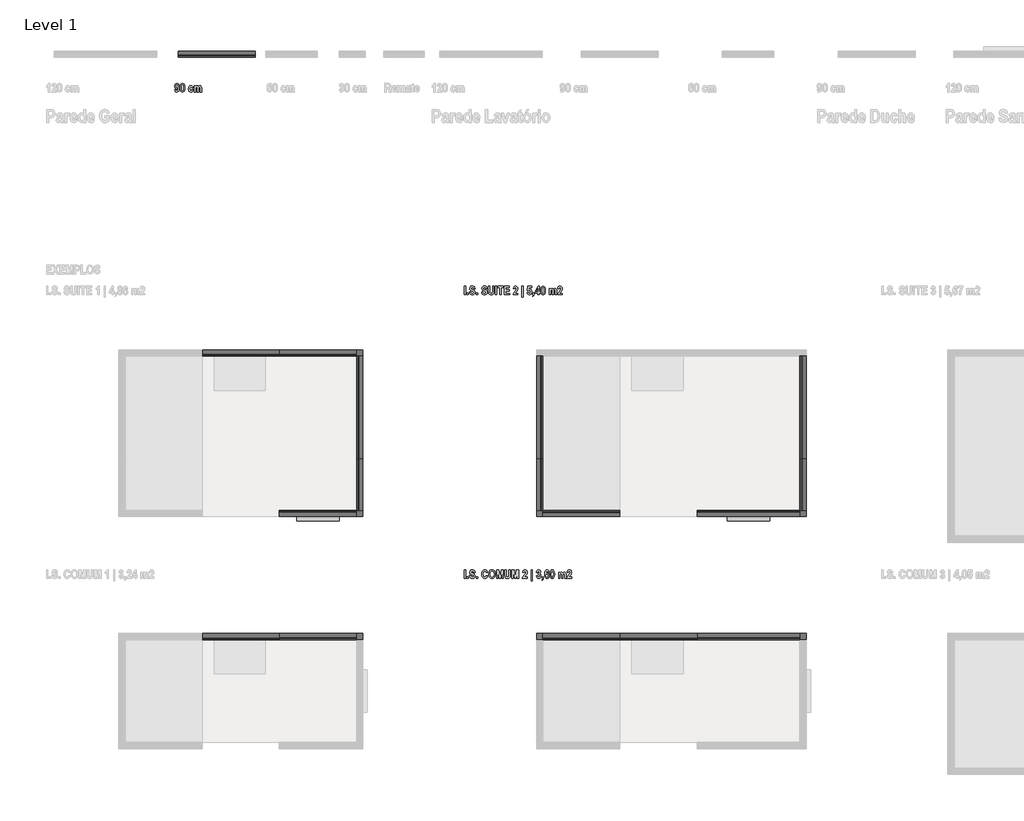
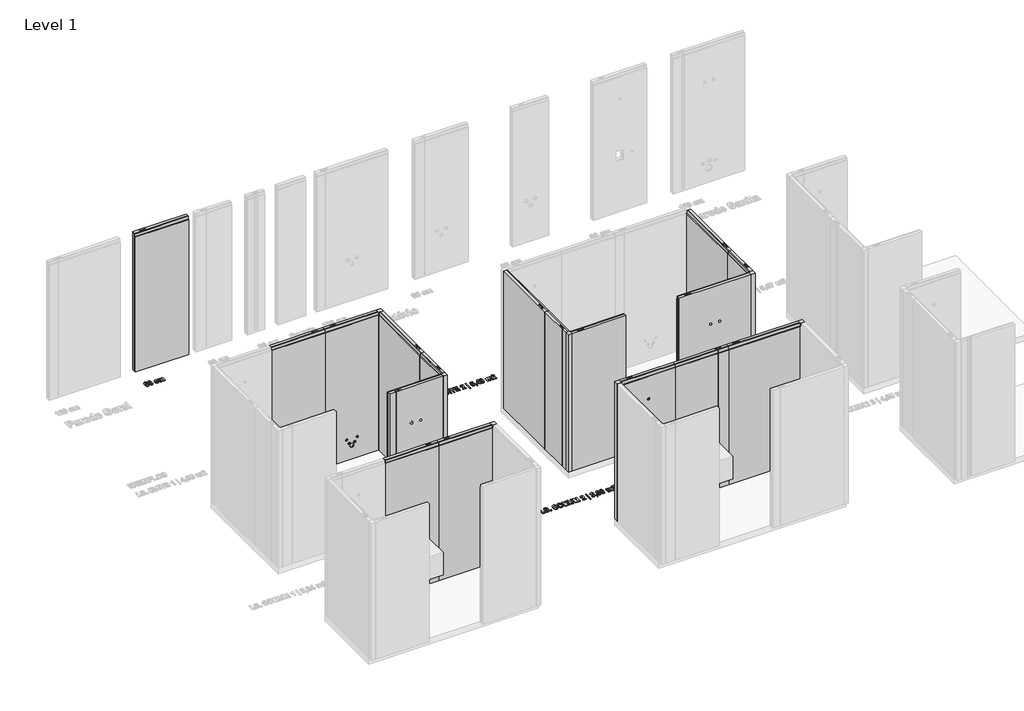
# One storey, part 5 of 10: 27 proxies.
"""IFC4 building model written with IfcOpenShell, lengths in millimetres."""

from ifc_helpers import new_model, si_unit, origin, origin_with_axes, place, context, project, spatial, polyline, outline, extrude, transform, mapped, element, save
from components import generic_models_3c551f1f, generic_models_aefc3c11, generic_models_87fa6935, generic_models_8d7f3108, generic_models_14bfae6f, generic_models_87e237a0, generic_models_d659e27f, generic_models_7c24a650, generic_models_bfa109d8, generic_models_1475a357, generic_models_0c33305c, generic_models_edb91717

model = new_model("IFC4")

# Units and contexts
model_context = context("Model", 3, world=origin())
ifc_project = project(units=[si_unit("LENGTHUNIT", "METRE", prefix="MILLI")], contexts=[model_context])

# Site, building, storey
site = spatial("IfcSite", under=ifc_project)
building = spatial("IfcBuilding", under=site)
storey = spatial("IfcBuildingStorey", under=building, Name="Level 1", Elevation=0.0)

# Proxies
placement = place(None, origin())
generic_models_shape = generic_models_3c551f1f(model_context)
element("IfcBuildingElementProxy", 1, Name="ParedeGeral_Blufab : Parede Geral - Largura 60 cm", ObjectType="ParedeGeral_Blufab : Parede Geral - Largura 60 cm", at=placement, inside=storey, context=model_context, shape_type="MappedRepresentation", body=[
    mapped(generic_models_shape, transform((-3896.3404571, 2627.3727477, 0.0), x_axis=(0.0, 1.0, 0.0), y_axis=(-1.0, 0.0, 0.0), z_axis=(0.0, 0.0, 1.0))),
])
generic_models_2_shape = generic_models_aefc3c11(model_context)
element("IfcBuildingElementProxy", 2, Name="ParedeGeral_Blufab : Parede Geral - Largura 90 cm", ObjectType="ParedeGeral_Blufab : Parede Geral - Largura 90 cm", at=placement, inside=storey, context=model_context, shape_type="MappedRepresentation", body=[
    mapped(generic_models_2_shape, transform((-8150.8727752, 7918.7563997, 0.0), x_axis=(1.0, 0.0, 0.0), y_axis=(0.0, 1.0, 0.0), z_axis=(0.0, 0.0, 1.0))),
])
element("IfcBuildingElementProxy", 3, Name="ParedeGeral_Blufab : Parede Geral - Largura 90 cm", ObjectType="ParedeGeral_Blufab : Parede Geral - Largura 90 cm", at=placement, inside=storey, context=model_context, shape_type="MappedRepresentation", body=[
    mapped(generic_models_2_shape, transform((-6971.3404571, 1114.1909428, 0.0), x_axis=(1.0, 0.0, 0.0), y_axis=(0.0, 1.0, 0.0), z_axis=(0.0, 0.0, 1.0))),
])
generic_models_3_shape = generic_models_87fa6935(model_context)
element("IfcBuildingElementProxy", 4, Name="ParedeGeral_Blufab : Parede Geral - Largura 120 cm", ObjectType="ParedeGeral_Blufab : Parede Geral - Largura 120 cm", at=placement, inside=storey, context=model_context, shape_type="MappedRepresentation", body=[
    mapped(generic_models_3_shape, transform((-3896.3404571, 3227.3727477, 0.0), x_axis=(0.0, 1.0, 0.0), y_axis=(-1.0, 0.0, 0.0), z_axis=(0.0, 0.0, 1.0))),
])
element("IfcBuildingElementProxy", 5, Name="ParedeGeral_Blufab : Parede Geral - Largura 120 cm", ObjectType="ParedeGeral_Blufab : Parede Geral - Largura 120 cm", at=placement, inside=storey, context=model_context, shape_type="MappedRepresentation", body=[
    mapped(generic_models_3_shape, transform((-2096.3404571, 1114.1909428, 0.0), x_axis=(1.0, 0.0, 0.0), y_axis=(0.0, 1.0, 0.0), z_axis=(0.0, 0.0, 1.0))),
])
generic_models_4_shape = generic_models_8d7f3108(model_context)
element("IfcBuildingElementProxy", 6, Name="ParedeDuche_Blufab : Parede Duche- Largura 90 cm", ObjectType="ParedeDuche_Blufab : Parede Duche- Largura 90 cm", at=placement, inside=storey, context=model_context, shape_type="MappedRepresentation", body=[
    mapped(generic_models_4_shape, transform((-3896.3404571, 1114.1909428, 0.0), x_axis=(1.0, 0.0, 0.0), y_axis=(0.0, 1.0, 0.0), z_axis=(0.0, 0.0, 1.0))),
])
generic_models_5_shape = generic_models_14bfae6f(model_context)
element("IfcBuildingElementProxy", 7, Name="ParedeBidé_Blufab : Parede Bidé - Largura 90 cm", ObjectType="ParedeBidé_Blufab : Parede Bidé - Largura 90 cm", at=placement, inside=storey, context=model_context, shape_type="MappedRepresentation", body=[
    mapped(generic_models_5_shape, transform((-6971.3404571, 4427.3727477, 0.0), x_axis=(1.0, 0.0, 0.0), y_axis=(0.0, 1.0, 0.0), z_axis=(0.0, 0.0, 1.0))),
])
generic_models_6_shape = generic_models_87e237a0(model_context)
element("IfcBuildingElementProxy", 8, Name="PerfilCanto_Blufab : Parede Geral - Largura 60 cm", ObjectType="PerfilCanto_Blufab : Parede Geral - Largura 60 cm", at=placement, inside=storey, context=model_context, shape_type="MappedRepresentation", body=[
    mapped(generic_models_6_shape, transform((-6071.3404571, 4427.3727477, 0.0), x_axis=(1.0, 0.0, 0.0), y_axis=(0.0, 1.0, 0.0), z_axis=(0.0, 0.0, 1.0))),
])
element("IfcBuildingElementProxy", 9, Name="PerfilCanto_Blufab : Parede Geral - Largura 60 cm", ObjectType="PerfilCanto_Blufab : Parede Geral - Largura 60 cm", at=placement, inside=storey, context=model_context, shape_type="MappedRepresentation", body=[
    mapped(generic_models_6_shape, transform((-6071.3404571, 2554.3727477, 0.0), x_axis=(1.0, 0.0, 0.0), y_axis=(0.0, 1.0, 0.0), z_axis=(0.0, 0.0, 1.0))),
])
element("IfcBuildingElementProxy", 10, Name="PerfilCanto_Blufab : Parede Geral - Largura 60 cm", ObjectType="PerfilCanto_Blufab : Parede Geral - Largura 60 cm", at=placement, inside=storey, context=model_context, shape_type="MappedRepresentation", body=[
    mapped(generic_models_6_shape, transform((-3969.3404571, 2554.3727477, 0.0), x_axis=(1.0, 0.0, 0.0), y_axis=(0.0, 1.0, 0.0), z_axis=(0.0, 0.0, 1.0))),
])
element("IfcBuildingElementProxy", 11, Name="PerfilCanto_Blufab : Parede Geral - Largura 60 cm", ObjectType="PerfilCanto_Blufab : Parede Geral - Largura 60 cm", at=placement, inside=storey, context=model_context, shape_type="MappedRepresentation", body=[
    mapped(generic_models_6_shape, transform((-896.3404571, 2554.3727477, 0.0), x_axis=(1.0, 0.0, 0.0), y_axis=(0.0, 1.0, 0.0), z_axis=(0.0, 0.0, 1.0))),
])
element("IfcBuildingElementProxy", 12, Name="PerfilCanto_Blufab : Parede Geral - Largura 60 cm", ObjectType="PerfilCanto_Blufab : Parede Geral - Largura 60 cm", at=placement, inside=storey, context=model_context, shape_type="MappedRepresentation", body=[
    mapped(generic_models_6_shape, transform((-6071.3404571, 1114.1909428, 0.0), x_axis=(1.0, 0.0, 0.0), y_axis=(0.0, 1.0, 0.0), z_axis=(0.0, 0.0, 1.0))),
])
element("IfcBuildingElementProxy", 13, Name="PerfilCanto_Blufab : Parede Geral - Largura 60 cm", ObjectType="PerfilCanto_Blufab : Parede Geral - Largura 60 cm", at=placement, inside=storey, context=model_context, shape_type="MappedRepresentation", body=[
    mapped(generic_models_6_shape, transform((-3969.3404571, 1114.1909428, 0.0), x_axis=(1.0, 0.0, 0.0), y_axis=(0.0, 1.0, 0.0), z_axis=(0.0, 0.0, 1.0))),
])
element("IfcBuildingElementProxy", 14, Name="PerfilCanto_Blufab : Parede Geral - Largura 60 cm", ObjectType="PerfilCanto_Blufab : Parede Geral - Largura 60 cm", at=placement, inside=storey, context=model_context, shape_type="MappedRepresentation", body=[
    mapped(generic_models_6_shape, transform((-896.3404571, 1114.1909428, 0.0), x_axis=(1.0, 0.0, 0.0), y_axis=(0.0, 1.0, 0.0), z_axis=(0.0, 0.0, 1.0))),
])
generic_models_7_shape = generic_models_d659e27f(model_context)
element("IfcBuildingElementProxy", 15, Name="ParedeLavatório_Blufab : Parede Lavatório - Largura 90 cm", ObjectType="ParedeLavatório_Blufab : Parede Lavatório - Largura 90 cm", at=placement, inside=storey, context=model_context, shape_type="MappedRepresentation", body=[
    mapped(generic_models_7_shape, transform((-6971.3404571, 4427.3727477, 0.0), x_axis=(-1.0, 0.0, 0.0), y_axis=(0.0, -1.0, 0.0), z_axis=(0.0, 0.0, 1.0))),
])
element("IfcBuildingElementProxy", 16, Name="ParedeLavatório_Blufab : Parede Lavatório - Largura 90 cm", ObjectType="ParedeLavatório_Blufab : Parede Lavatório - Largura 90 cm", at=placement, inside=storey, context=model_context, shape_type="MappedRepresentation", body=[
    mapped(generic_models_7_shape, transform((-6971.3404571, 1114.1909428, 0.0), x_axis=(-1.0, 0.0, 0.0), y_axis=(0.0, -1.0, 0.0), z_axis=(0.0, 0.0, 1.0))),
])
element("IfcBuildingElementProxy", 17, Name="ParedeLavatório_Blufab : Parede Lavatório - Largura 90 cm", ObjectType="ParedeLavatório_Blufab : Parede Lavatório - Largura 90 cm", at=placement, inside=storey, context=model_context, shape_type="MappedRepresentation", body=[
    mapped(generic_models_7_shape, transform((-2096.3404571, 1114.1909428, 0.0), x_axis=(-1.0, 0.0, 0.0), y_axis=(0.0, -1.0, 0.0), z_axis=(0.0, 0.0, 1.0))),
])
generic_models_8_shape = generic_models_7c24a650(model_context)
element("IfcBuildingElementProxy", 18, Name="ParedeGeral_Blufab : Parede Geral - Largura 90 cm", ObjectType="ParedeGeral_Blufab : Parede Geral - Largura 90 cm", at=placement, inside=storey, context=model_context, shape_type="MappedRepresentation", body=[
    mapped(generic_models_8_shape, transform((-3896.3404571, 2627.3727477, 0.0), x_axis=(1.0, 0.0, 0.0), y_axis=(0.0, 1.0, 0.0), z_axis=(0.0, 0.0, 1.0))),
])
generic_models_9_shape = generic_models_bfa109d8(model_context)
element("IfcBuildingElementProxy", 19, Name="ParedeGeral_Blufab : Parede Geral - Largura 120 cm", ObjectType="ParedeGeral_Blufab : Parede Geral - Largura 120 cm", at=placement, inside=storey, context=model_context, shape_type="MappedRepresentation", body=[
    mapped(generic_models_9_shape, transform((-6071.3404571, 3227.3727477, 0.0), x_axis=(0.0, 1.0, 0.0), y_axis=(-1.0, 0.0, 0.0), z_axis=(0.0, 0.0, 1.0))),
])
element("IfcBuildingElementProxy", 20, Name="ParedeGeral_Blufab : Parede Geral - Largura 120 cm", ObjectType="ParedeGeral_Blufab : Parede Geral - Largura 120 cm", at=placement, inside=storey, context=model_context, shape_type="MappedRepresentation", body=[
    mapped(generic_models_9_shape, transform((-896.3404571, 3227.3727477, 0.0), x_axis=(0.0, 1.0, 0.0), y_axis=(-1.0, 0.0, 0.0), z_axis=(0.0, 0.0, 1.0))),
])
generic_models_10_shape = generic_models_1475a357(model_context)
element("IfcBuildingElementProxy", 21, Name="ParedeGeral_Blufab : Parede Geral - Largura 60 cm", ObjectType="ParedeGeral_Blufab : Parede Geral - Largura 60 cm", at=placement, inside=storey, context=model_context, shape_type="MappedRepresentation", body=[
    mapped(generic_models_10_shape, transform((-6071.3404571, 2627.3727477, 0.0), x_axis=(0.0, 1.0, 0.0), y_axis=(-1.0, 0.0, 0.0), z_axis=(0.0, 0.0, 1.0))),
])
element("IfcBuildingElementProxy", 22, Name="ParedeGeral_Blufab : Parede Geral - Largura 60 cm", ObjectType="ParedeGeral_Blufab : Parede Geral - Largura 60 cm", at=placement, inside=storey, context=model_context, shape_type="MappedRepresentation", body=[
    mapped(generic_models_10_shape, transform((-896.3404571, 2627.3727477, 0.0), x_axis=(0.0, 1.0, 0.0), y_axis=(-1.0, 0.0, 0.0), z_axis=(0.0, 0.0, 1.0))),
])
generic_models_11_shape = generic_models_0c33305c(model_context)
element("IfcBuildingElementProxy", 23, Name="ParedeSanita_Blufab : Parede Sanita - Largura 90 cm", ObjectType="ParedeSanita_Blufab : Parede Sanita - Largura 90 cm", at=placement, inside=storey, context=model_context, shape_type="MappedRepresentation", body=[
    mapped(generic_models_11_shape, transform((-6971.3404571, 2627.3727477, 0.0), x_axis=(1.0, 0.0, 0.0), y_axis=(0.0, 1.0, 0.0), z_axis=(0.0, 0.0, 1.0))),
])
generic_models_12_shape = generic_models_edb91717(model_context)
element("IfcBuildingElementProxy", 24, Name="ParedeSanita_Blufab : Parede Sanita- Largura 120 cm", ObjectType="ParedeSanita_Blufab : Parede Sanita- Largura 120 cm", at=placement, inside=storey, context=model_context, shape_type="MappedRepresentation", body=[
    mapped(generic_models_12_shape, transform((-2096.3404571, 2627.3727477, 0.0), x_axis=(1.0, 0.0, 0.0), y_axis=(0.0, 1.0, 0.0), z_axis=(0.0, 0.0, 1.0))),
])
element("IfcBuildingElementProxy", 25, Name="24\" Arial", ObjectType="24\" Arial", at=placement, inside=storey, context=model_context, shape_type="SweptSolid", body=[
    extrude(outline(polyline([(-8193.2675308, 7537.2422205), (-8177.0225947, 7538.8667141), (-8174.1860766, 7530.3381226), (-8167.9102009, 7527.4952588), (-8159.0643255, 7532.9906161), (-8154.6350422, 7555.39086), (-8161.5518314, 7549.1086386), (-8170.0931142, 7546.9891821), (-8179.3006932, 7549.2228608), (-8187.3787415, 7555.923897), (-8193.0137037, 7566.3181178), (-8194.8920244, 7579.6313506), (-8192.9819753, 7593.7758672), (-8187.2518279, 7604.5317917), (-8178.7232365, 7611.328013), (-8168.4178551, 7613.5934201), (-8157.0019801, 7610.6648896), (-8147.7817098, 7601.8792982), (-8141.6898587, 7586.3101768), (-8139.6592417, 7563.0310565), (-8141.7723525, 7539.3140844), (-8148.111685, 7523.3451853), (-8157.8205726, 7514.2740384), (-8170.0423487, 7511.2503227), (-8178.5677673, 7512.8430879), (-8185.4623467, 7517.6213836), (-8190.4532225, 7525.7121233), (-8193.2675308, 7537.2422205)]), holes=[polyline([(-8155.9041778, 7579.2252272), (-8159.6100538, 7592.6526822), (-8168.0117317, 7597.348484), (-8175.6138542, 7593.4776203), (-8178.6470883, 7580.5958937), (-8175.3346443, 7567.4222658), (-8167.1741022, 7563.2341182), (-8159.2166218, 7567.2318955), (-8155.9041778, 7579.2252272)])]), origin_with_axes(), (0.0, 0.0, 1.0), 10.0),
    extrude(outline(polyline([(-8103.1335182, 7613.5934201), (-8092.2760629, 7610.7473834), (-8083.715743, 7602.2092735), (-8078.156929, 7586.564004), (-8076.303991, 7562.3964887), (-8078.156929, 7538.2670475), (-8083.715743, 7522.6344693), (-8092.2633715, 7514.0963594), (-8103.0827528, 7511.2503227), (-8113.9402081, 7514.0709767), (-8122.500528, 7522.5329385), (-8128.059342, 7538.1908994), (-8129.9122801, 7562.5995504), (-8128.059342, 7586.6147694), (-8122.500528, 7602.2092735), (-8113.9528995, 7610.7473834), (-8103.1335182, 7613.5934201)]), holes=[polyline([(-8103.1081355, 7597.348484), (-8110.7990974, 7591.256633), (-8113.667344, 7562.3964887), (-8110.7990974, 7533.5617271), (-8103.1081355, 7527.4952588), (-8095.3790995, 7533.5871099), (-8092.548927, 7562.3964887), (-8095.3790995, 7591.256633), (-8103.1081355, 7597.348484)])]), origin_with_axes(), (0.0, 0.0, 1.0), 10.0),
    extrude(outline(polyline([(-7978.8343744, 7564.8586118), (-7995.0793105, 7561.6096246), (-7998.4869397, 7568.9198458), (-8005.4100746, 7571.3565863), (-8014.4082462, 7566.5719449), (-8017.822221, 7550.4158483), (-8014.5224684, 7532.6733322), (-8005.6892844, 7527.4952588), (-7998.8867174, 7530.3635053), (-7995.0793105, 7540.4912077), (-7978.8343744, 7537.2422205), (-7982.2880098, 7525.8707652), (-7987.9531139, 7517.7482972), (-7995.829687, 7512.8748163), (-8005.9177288, 7511.2503227), (-8018.3838136, 7514.0360754), (-8027.1503679, 7522.3933336), (-8032.3379598, 7534.6722208), (-8034.0671571, 7549.2228608), (-8032.0809599, 7565.7596981), (-8026.1223681, 7577.8037953), (-8016.9401718, 7585.1520906), (-8005.283161, 7587.6015223), (-7995.8154092, 7586.2403744), (-7988.2767435, 7582.1569305), (-7978.8343744, 7564.8586118)])), origin_with_axes(), (0.0, 0.0, 1.0), 10.0),
    extrude(outline(polyline([(-7967.4629192, 7585.9770287), (-7952.8424767, 7585.9770287), (-7952.8424767, 7576.0777708), (-7944.2885025, 7584.7459672), (-7934.2369483, 7587.6015223), (-7924.2996163, 7584.7332758), (-7917.4082098, 7576.0523881), (-7908.9050011, 7584.7332758), (-7899.2341876, 7587.6015223), (-7888.7384359, 7584.6825104), (-7882.0373998, 7576.3189066), (-7879.7402643, 7559.6043903), (-7879.7402643, 7512.8748163), (-7895.9852004, 7512.8748163), (-7895.9852004, 7553.6394528), (-7897.8508297, 7567.8283892), (-7904.1076684, 7571.3565863), (-7912.35705, 7566.4196487), (-7915.4791237, 7547.1160957), (-7915.4791237, 7512.8748163), (-7931.7240598, 7512.8748163), (-7931.7240598, 7551.9641938), (-7932.9678127, 7566.9146115), (-7939.6434661, 7571.3565863), (-7945.8622307, 7569.0721421), (-7949.9615388, 7562.3964887), (-7951.2179831, 7547.5222191), (-7951.2179831, 7512.8748163), (-7967.4629192, 7512.8748163), (-7967.4629192, 7585.9770287)])), origin_with_axes(), (0.0, 0.0, 1.0), 10.0),
])
element("IfcBuildingElementProxy", 26, Name="24\" Arial", ObjectType="24\" Arial", at=placement, inside=storey, context=model_context, shape_type="SweptSolid", body=[
    extrude(outline(polyline([(-4815.0185436, 5144.3634386), (-4815.0185436, 5245.0820423), (-4798.7736075, 5245.0820423), (-4798.7736075, 5144.3634386), (-4815.0185436, 5144.3634386)])), origin_with_axes(), (0.0, 0.0, 1.0), 10.0),
    extrude(outline(polyline([(-4782.5286714, 5144.3634386), (-4782.5286714, 5163.8573619), (-4766.2837353, 5163.8573619), (-4766.2837353, 5144.3634386), (-4782.5286714, 5144.3634386)])), origin_with_axes(), (0.0, 0.0, 1.0), 10.0),
    extrude(outline(polyline([(-4753.2877864, 5176.8533108), (-4737.0428504, 5178.4778044), (-4731.1857894, 5165.0757321), (-4719.0972725, 5160.6083747), (-4707.2435457, 5164.3650161), (-4702.9284846, 5173.655089), (-4704.4514473, 5179.1885203), (-4709.0964837, 5182.9451618), (-4723.9707533, 5188.1486179), (-4739.3653686, 5195.2557774), (-4747.14517, 5205.2058008), (-4750.0387992, 5218.4809595), (-4746.2948491, 5233.3425377), (-4735.9640851, 5243.3306352), (-4719.6810749, 5246.7065359), (-4706.7295458, 5244.812351), (-4696.9635471, 5239.1297962), (-4690.7130541, 5229.92539), (-4688.3080421, 5217.465651), (-4704.5529782, 5215.8411574), (-4709.2995454, 5225.9561684), (-4719.7318403, 5228.8371062), (-4730.1387525, 5226.0957733), (-4733.7938631, 5219.2932063), (-4730.9256166, 5212.5667874), (-4716.3559396, 5206.1449611), (-4698.3342136, 5198.2509375), (-4689.6787086, 5188.1105438), (-4686.6835485, 5173.0205211), (-4688.6856099, 5161.2239054), (-4694.6917943, 5151.4705981), (-4704.9622744, 5144.9218583), (-4719.757223, 5142.738945), (-4733.1513632, 5144.8710928), (-4743.2045038, 5151.2675364), (-4749.9166449, 5161.9282757), (-4753.2877864, 5176.8533108)])), origin_with_axes(), (0.0, 0.0, 1.0), 10.0),
    extrude(outline(polyline([(-4673.6875996, 5144.3634386), (-4673.6875996, 5163.8573619), (-4657.4426635, 5163.8573619), (-4657.4426635, 5144.3634386), (-4673.6875996, 5144.3634386)])), origin_with_axes(), (0.0, 0.0, 1.0), 10.0),
    extrude(outline(polyline([(-4611.9568425, 5176.8533108), (-4595.7119064, 5178.4778044), (-4589.8548454, 5165.0757321), (-4577.7663285, 5160.6083747), (-4565.9126017, 5164.3650161), (-4561.5975406, 5173.655089), (-4563.1205033, 5179.1885203), (-4567.7655398, 5182.9451618), (-4582.6398094, 5188.1486179), (-4598.0344246, 5195.2557774), (-4605.814226, 5205.2058008), (-4608.7078553, 5218.4809595), (-4604.9639051, 5233.3425377), (-4594.6331411, 5243.3306352), (-4578.3501309, 5246.7065359), (-4565.3986018, 5244.812351), (-4555.6326031, 5239.1297962), (-4549.3821101, 5229.92539), (-4546.9770981, 5217.465651), (-4563.2220342, 5215.8411574), (-4567.9686015, 5225.9561684), (-4578.4008964, 5228.8371062), (-4588.8078085, 5226.0957733), (-4592.4629192, 5219.2932063), (-4589.5946726, 5212.5667874), (-4575.0249956, 5206.1449611), (-4557.0032696, 5198.2509375), (-4548.3477646, 5188.1105438), (-4545.3526045, 5173.0205211), (-4547.354666, 5161.2239054), (-4553.3608503, 5151.4705981), (-4563.6313304, 5144.9218583), (-4578.4262791, 5142.738945), (-4591.8204192, 5144.8710928), (-4601.8735599, 5151.2675364), (-4608.5857009, 5161.9282757), (-4611.9568425, 5176.8533108)])), origin_with_axes(), (0.0, 0.0, 1.0), 10.0),
    extrude(outline(polyline([(-4532.3566556, 5245.0820423), (-4516.1117195, 5245.0820423), (-4516.1117195, 5190.9153336), (-4515.5025344, 5174.4673358), (-4510.2483129, 5164.2254112), (-4499.3083638, 5160.6083747), (-4489.9294515, 5163.1720286), (-4484.9544398, 5170.2664968), (-4483.6218474, 5189.7477288), (-4483.6218474, 5245.0820423), (-4467.3769113, 5245.0820423), (-4467.3769113, 5192.2352346), (-4469.5090591, 5162.9562756), (-4472.9801451, 5154.7893878), (-4479.1291072, 5148.3358331), (-4487.8099949, 5144.138167), (-4498.8768577, 5142.738945), (-4518.764213, 5147.37129), (-4529.1330511, 5160.4180043), (-4532.3566556, 5191.3976051), (-4532.3566556, 5245.0820423)])), origin_with_axes(), (0.0, 0.0, 1.0), 10.0),
    extrude(outline(polyline([(-4449.5074816, 5144.3634386), (-4449.5074816, 5245.0820423), (-4433.2625455, 5245.0820423), (-4433.2625455, 5144.3634386), (-4449.5074816, 5144.3634386)])), origin_with_axes(), (0.0, 0.0, 1.0), 10.0),
    extrude(outline(polyline([(-4397.5236861, 5144.3634386), (-4397.5236861, 5228.8371062), (-4421.8910902, 5228.8371062), (-4421.8910902, 5245.0820423), (-4356.9113459, 5245.0820423), (-4356.9113459, 5228.8371062), (-4381.27875, 5228.8371062), (-4381.27875, 5144.3634386), (-4397.5236861, 5144.3634386)])), origin_with_axes(), (0.0, 0.0, 1.0), 10.0),
    extrude(outline(polyline([(-4347.1643842, 5144.3634386), (-4347.1643842, 5245.0820423), (-4287.0581207, 5245.0820423), (-4287.0581207, 5228.8371062), (-4330.9194481, 5228.8371062), (-4330.9194481, 5204.4697021), (-4290.3071079, 5204.4697021), (-4290.3071079, 5188.224766), (-4330.9194481, 5188.224766), (-4330.9194481, 5160.6083747), (-4285.4336271, 5160.6083747), (-4285.4336271, 5144.3634386), (-4347.1643842, 5144.3634386)])), origin_with_axes(), (0.0, 0.0, 1.0), 10.0),
    extrude(outline(polyline([(-4187.9640105, 5160.6083747), (-4187.9640105, 5144.3634386), (-4243.1967932, 5144.3634386), (-4237.8156582, 5163.5654607), (-4220.3523519, 5187.4632846), (-4207.711761, 5203.4036282), (-4204.2089466, 5215.612713), (-4207.0391191, 5225.4992795), (-4214.4635625, 5228.8371062), (-4222.2179812, 5225.1819956), (-4225.3273635, 5214.2166638), (-4241.5722996, 5215.8411574), (-4238.7103988, 5228.9354643), (-4233.0183255, 5238.0129569), (-4224.7372155, 5243.314771), (-4214.1082046, 5245.0820423), (-4202.7335765, 5242.9372031), (-4194.5508245, 5236.5026855), (-4189.610714, 5227.2951064), (-4187.9640105, 5216.8310832), (-4189.6392696, 5204.6600725), (-4194.8046516, 5192.7936543), (-4206.4426253, 5177.5640267), (-4216.0499821, 5166.0402752), (-4219.3116606, 5160.6083747), (-4187.9640105, 5160.6083747)])), origin_with_axes(), (0.0, 0.0, 1.0), 10.0),
    extrude(outline(polyline([(-4140.8536959, 5115.1225536), (-4140.8536959, 5246.7065359), (-4127.857747, 5246.7065359), (-4127.857747, 5115.1225536), (-4140.8536959, 5115.1225536)])), origin_with_axes(), (0.0, 0.0, 1.0), 10.0),
    extrude(outline(polyline([(-4080.7474324, 5171.9798299), (-4064.5024963, 5173.6043235), (-4060.5681758, 5162.8928188), (-4053.2579546, 5158.9838811), (-4045.1481779, 5163.9208187), (-4041.7595857, 5179.0616068), (-4045.224326, 5193.352074), (-4054.0448187, 5197.9717277), (-4060.504719, 5196.3472341), (-4066.2792861, 5191.4737532), (-4079.1229387, 5193.0982468), (-4071.0004707, 5243.4575487), (-4028.7636369, 5243.4575487), (-4028.7636369, 5227.2126126), (-4057.1668923, 5227.2126126), (-4060.3397314, 5207.6679239), (-4049.8312884, 5214.2166638), (-4041.1186722, 5212.2241208), (-4033.8147967, 5206.246492), (-4027.5896864, 5194.475259), (-4025.5146496, 5179.4677302), (-4027.3358593, 5166.3099665), (-4032.7994882, 5154.2500051), (-4041.6453635, 5145.61671), (-4053.6133125, 5142.738945), (-4063.6553482, 5144.6394756), (-4071.901557, 5150.3410674), (-4077.7871735, 5159.5518193), (-4080.7474324, 5171.9798299)])), origin_with_axes(), (0.0, 0.0, 1.0), 10.0),
    extrude(outline(polyline([(-4014.1431944, 5163.8573619), (-3997.8982583, 5163.8573619), (-3997.8982583, 5149.8968699), (-4000.7918875, 5132.2558846), (-4012.6963798, 5121.6205281), (-4015.767688, 5129.5399344), (-4008.4193927, 5134.83223), (-4006.0207263, 5144.3634386), (-4014.1431944, 5144.3634386), (-4014.1431944, 5163.8573619)])), origin_with_axes(), (0.0, 0.0, 1.0), 10.0),
    extrude(outline(polyline([(-3954.0369309, 5144.3634386), (-3954.0369309, 5163.8573619), (-3986.526803, 5163.8573619), (-3986.526803, 5180.0261498), (-3951.9301657, 5245.0820423), (-3937.7919948, 5245.0820423), (-3937.7919948, 5180.102298), (-3928.0450331, 5180.102298), (-3928.0450331, 5163.8573619), (-3937.7919948, 5163.8573619), (-3937.7919948, 5144.3634386), (-3954.0369309, 5144.3634386)]), holes=[polyline([(-3954.0369309, 5180.102298), (-3954.0369309, 5215.1050587), (-3972.2617185, 5180.102298), (-3954.0369309, 5180.102298)])]), origin_with_axes(), (0.0, 0.0, 1.0), 10.0),
    extrude(outline(polyline([(-3894.7682968, 5245.0820423), (-3883.9108415, 5242.2360057), (-3875.3505217, 5233.6978957), (-3869.7917076, 5218.0526262), (-3867.9387696, 5193.8851109), (-3869.7917076, 5169.7556697), (-3875.3505217, 5154.1230916), (-3883.8981502, 5145.5849816), (-3894.7175314, 5142.738945), (-3905.5749867, 5145.5595989), (-3914.1353066, 5154.0215607), (-3919.6941207, 5169.6795216), (-3921.5470587, 5194.0881726), (-3919.6941207, 5218.1033916), (-3914.1353066, 5233.6978957), (-3905.5876781, 5242.2360057), (-3894.7682968, 5245.0820423)]), holes=[polyline([(-3894.7429141, 5228.8371062), (-3902.4338761, 5222.7452552), (-3905.3021226, 5193.8851109), (-3902.4338761, 5165.0503494), (-3894.7429141, 5158.9838811), (-3887.0138781, 5165.0757321), (-3884.1837057, 5193.8851109), (-3887.0138781, 5222.7452552), (-3894.7429141, 5228.8371062)])]), origin_with_axes(), (0.0, 0.0, 1.0), 10.0),
    extrude(outline(polyline([(-3822.4529485, 5217.465651), (-3807.8325061, 5217.465651), (-3807.8325061, 5207.566393), (-3799.2785319, 5216.2345894), (-3789.2269777, 5219.0901446), (-3779.2896457, 5216.2218981), (-3772.3982392, 5207.5410103), (-3763.8950305, 5216.2218981), (-3754.224217, 5219.0901446), (-3743.7284653, 5216.1711326), (-3737.0274291, 5207.8075288), (-3734.7302937, 5191.0930125), (-3734.7302937, 5144.3634386), (-3750.9752297, 5144.3634386), (-3750.9752297, 5185.1280751), (-3752.8408591, 5199.3170114), (-3759.0976978, 5202.8452085), (-3767.3470794, 5197.9082709), (-3770.469153, 5178.6047179), (-3770.469153, 5144.3634386), (-3786.7140891, 5144.3634386), (-3786.7140891, 5183.452816), (-3787.9578421, 5198.4032338), (-3794.6334955, 5202.8452085), (-3800.8522601, 5200.5607644), (-3804.9515682, 5193.8851109), (-3806.2080124, 5179.0108413), (-3806.2080124, 5144.3634386), (-3822.4529485, 5144.3634386), (-3822.4529485, 5217.465651)])), origin_with_axes(), (0.0, 0.0, 1.0), 10.0),
    extrude(outline(polyline([(-3669.7505493, 5160.6083747), (-3669.7505493, 5144.3634386), (-3724.983332, 5144.3634386), (-3719.6021969, 5163.5654607), (-3702.1388906, 5187.4632846), (-3689.4982997, 5203.4036282), (-3685.9954854, 5215.612713), (-3688.8256578, 5225.4992795), (-3696.2501013, 5228.8371062), (-3704.00452, 5225.1819956), (-3707.1139023, 5214.2166638), (-3723.3588384, 5215.8411574), (-3720.4969375, 5228.9354643), (-3714.8048642, 5238.0129569), (-3706.5237542, 5243.314771), (-3695.8947433, 5245.0820423), (-3684.5201152, 5242.9372031), (-3676.3373632, 5236.5026855), (-3671.3972528, 5227.2951064), (-3669.7505493, 5216.8310832), (-3671.4258083, 5204.6600725), (-3676.5911904, 5192.7936543), (-3688.2291641, 5177.5640267), (-3697.8365208, 5166.0402752), (-3701.0981994, 5160.6083747), (-3669.7505493, 5160.6083747)])), origin_with_axes(), (0.0, 0.0, 1.0), 10.0),
])
element("IfcBuildingElementProxy", 27, Name="24\" Arial", ObjectType="24\" Arial", at=placement, inside=storey, context=model_context, shape_type="SweptSolid", body=[
    extrude(outline(polyline([(-4815.0185436, 1831.1816336), (-4815.0185436, 1931.9002374), (-4798.7736075, 1931.9002374), (-4798.7736075, 1831.1816336), (-4815.0185436, 1831.1816336)])), origin_with_axes(), (0.0, 0.0, 1.0), 10.0),
    extrude(outline(polyline([(-4782.5286714, 1831.1816336), (-4782.5286714, 1850.6755569), (-4766.2837353, 1850.6755569), (-4766.2837353, 1831.1816336), (-4782.5286714, 1831.1816336)])), origin_with_axes(), (0.0, 0.0, 1.0), 10.0),
    extrude(outline(polyline([(-4753.2877864, 1863.6715058), (-4737.0428504, 1865.2959994), (-4731.1857894, 1851.8939271), (-4719.0972725, 1847.4265697), (-4707.2435457, 1851.1832112), (-4702.9284846, 1860.473284), (-4704.4514473, 1866.0067154), (-4709.0964837, 1869.7633568), (-4723.9707533, 1874.9668129), (-4739.3653686, 1882.0739725), (-4747.14517, 1892.0239958), (-4750.0387992, 1905.2991545), (-4746.2948491, 1920.1607328), (-4735.9640851, 1930.1488302), (-4719.6810749, 1933.524731), (-4706.7295458, 1931.630546), (-4696.9635471, 1925.9479913), (-4690.7130541, 1916.7435851), (-4688.3080421, 1904.283846), (-4704.5529782, 1902.6593524), (-4709.2995454, 1912.7743634), (-4719.7318403, 1915.6553013), (-4730.1387525, 1912.9139683), (-4733.7938631, 1906.1114013), (-4730.9256166, 1899.3849825), (-4716.3559396, 1892.9631562), (-4698.3342136, 1885.0691325), (-4689.6787086, 1874.9287388), (-4686.6835485, 1859.8387162), (-4688.6856099, 1848.0421005), (-4694.6917943, 1838.2887932), (-4704.9622744, 1831.7400533), (-4719.757223, 1829.55714), (-4733.1513632, 1831.6892879), (-4743.2045038, 1838.0857314), (-4749.9166449, 1848.7464708), (-4753.2877864, 1863.6715058)])), origin_with_axes(), (0.0, 0.0, 1.0), 10.0),
    extrude(outline(polyline([(-4673.6875996, 1831.1816336), (-4673.6875996, 1850.6755569), (-4657.4426635, 1850.6755569), (-4657.4426635, 1831.1816336), (-4673.6875996, 1831.1816336)])), origin_with_axes(), (0.0, 0.0, 1.0), 10.0),
    extrude(outline(polyline([(-4556.7240598, 1868.5449866), (-4540.4791237, 1862.0470122), (-4545.4795181, 1847.420224), (-4552.9674183, 1837.3496328), (-4562.7080343, 1831.5052632), (-4574.4665759, 1829.55714), (-4588.9918332, 1832.6601766), (-4600.4838564, 1841.9692865), (-4609.0885959, 1858.8107163), (-4611.9568425, 1880.6525405), (-4609.0632132, 1903.5731301), (-4600.3823255, 1920.9095228), (-4588.5984012, 1930.3709289), (-4573.3497365, 1933.524731), (-4560.6456889, 1931.1704844), (-4550.2007026, 1924.1077446), (-4540.4791237, 1904.283846), (-4556.7240598, 1899.4103652), (-4563.1712688, 1911.4671537), (-4574.5173413, 1915.6553013), (-4583.0205501, 1913.6976596), (-4589.7977343, 1907.8247344), (-4594.2333634, 1897.4400321), (-4595.7119064, 1881.9470589), (-4594.2904745, 1865.9400857), (-4590.0261787, 1855.3332847), (-4583.4901302, 1849.4032484), (-4575.25344, 1847.4265697), (-4563.7296885, 1852.4904209), (-4556.7240598, 1868.5449866)])), origin_with_axes(), (0.0, 0.0, 1.0), 10.0),
    extrude(outline(polyline([(-4529.1076684, 1880.9317504), (-4523.8153728, 1910.515302), (-4509.9944858, 1927.826312), (-4500.5584624, 1932.1001262), (-4489.307575, 1933.524731), (-4473.3228117, 1930.1456574), (-4460.599727, 1920.0084365), (-4452.2805429, 1903.633414), (-4449.5074816, 1881.5409355), (-4452.4455306, 1859.0645434), (-4461.2596775, 1842.0962), (-4473.4053055, 1832.691905), (-4489.2314269, 1829.55714), (-4505.1717704, 1832.6601766), (-4517.3554725, 1841.9692865), (-4526.1696194, 1858.8043706), (-4529.1076684, 1880.9317504)]), holes=[polyline([(-4512.8627323, 1881.6170836), (-4511.1620906, 1866.6508017), (-4506.0601653, 1855.9678525), (-4498.4453515, 1849.5618904), (-4489.2060441, 1847.4265697), (-4479.9445269, 1849.5460262), (-4472.4153797, 1855.9043957), (-4467.4181582, 1866.6539745), (-4465.7524177, 1881.9470589), (-4467.3737384, 1896.9323779), (-4472.2377007, 1907.418611), (-4479.7224281, 1913.5961287), (-4489.2060441, 1915.6553013), (-4498.7150429, 1913.5770917), (-4506.2759184, 1907.3424629), (-4511.2160288, 1896.7546989), (-4512.8627323, 1881.6170836)])]), origin_with_axes(), (0.0, 0.0, 1.0), 10.0),
    extrude(outline(polyline([(-4436.5115327, 1831.1816336), (-4436.5115327, 1931.9002374), (-4409.6566227, 1931.9002374), (-4396.7114393, 1861.5647406), (-4383.4108979, 1931.9002374), (-4356.9113459, 1931.9002374), (-4356.9113459, 1831.1816336), (-4373.156282, 1831.1816336), (-4373.156282, 1912.1017215), (-4388.5382058, 1831.1816336), (-4405.3415616, 1831.1816336), (-4420.2665966, 1912.1017215), (-4420.2665966, 1831.1816336), (-4436.5115327, 1831.1816336)])), origin_with_axes(), (0.0, 0.0, 1.0), 10.0),
    extrude(outline(polyline([(-4340.6664098, 1931.9002374), (-4324.4214737, 1931.9002374), (-4324.4214737, 1877.7335286), (-4323.8122886, 1861.2855308), (-4318.5580671, 1851.0436063), (-4307.6181179, 1847.4265697), (-4298.2392056, 1849.9902237), (-4293.2641939, 1857.0846919), (-4291.9316015, 1876.5659238), (-4291.9316015, 1931.9002374), (-4275.6866654, 1931.9002374), (-4275.6866654, 1879.0534296), (-4277.8188133, 1849.7744706), (-4281.2898992, 1841.6075828), (-4287.4388614, 1835.1540281), (-4296.1197491, 1830.956362), (-4307.1866118, 1829.55714), (-4327.0739672, 1834.1894851), (-4337.4428053, 1847.2361994), (-4340.6664098, 1878.2158001), (-4340.6664098, 1931.9002374)])), origin_with_axes(), (0.0, 0.0, 1.0), 10.0),
    extrude(outline(polyline([(-4257.8172357, 1831.1816336), (-4257.8172357, 1931.9002374), (-4230.9623258, 1931.9002374), (-4218.0171423, 1861.5647406), (-4204.7166009, 1931.9002374), (-4178.2170489, 1931.9002374), (-4178.2170489, 1831.1816336), (-4194.461985, 1831.1816336), (-4194.461985, 1912.1017215), (-4209.8439088, 1831.1816336), (-4226.6472646, 1831.1816336), (-4241.5722996, 1912.1017215), (-4241.5722996, 1831.1816336), (-4257.8172357, 1831.1816336)])), origin_with_axes(), (0.0, 0.0, 1.0), 10.0),
    extrude(outline(polyline([(-4079.1229387, 1847.4265697), (-4079.1229387, 1831.1816336), (-4134.3557214, 1831.1816336), (-4128.9745864, 1850.3836557), (-4111.5112801, 1874.2814797), (-4098.8706892, 1890.2218232), (-4095.3678748, 1902.430908), (-4098.1980473, 1912.3174746), (-4105.6224907, 1915.6553013), (-4113.3769094, 1912.0001907), (-4116.4862917, 1901.0348588), (-4132.7312278, 1902.6593524), (-4129.869327, 1915.7536593), (-4124.1772537, 1924.8311519), (-4115.8961437, 1930.132966), (-4105.2671328, 1931.9002374), (-4093.8925047, 1929.7553981), (-4085.7097527, 1923.3208805), (-4080.7696422, 1914.1133015), (-4079.1229387, 1903.6492782), (-4080.7981978, 1891.4782675), (-4085.9635798, 1879.6118493), (-4097.6015535, 1864.3822217), (-4107.2089103, 1852.8584702), (-4110.4705889, 1847.4265697), (-4079.1229387, 1847.4265697)])), origin_with_axes(), (0.0, 0.0, 1.0), 10.0),
    extrude(outline(polyline([(-4032.0126241, 1801.9407487), (-4032.0126241, 1933.524731), (-4019.0166752, 1933.524731), (-4019.0166752, 1801.9407487), (-4032.0126241, 1801.9407487)])), origin_with_axes(), (0.0, 0.0, 1.0), 10.0),
    extrude(outline(polyline([(-3971.9063606, 1858.798025), (-3955.6614245, 1860.4225186), (-3952.1078447, 1849.5587176), (-3945.0768333, 1845.8020761), (-3937.6016244, 1850.2567422), (-3934.5430075, 1862.6054319), (-3937.7031553, 1874.116492), (-3945.3560431, 1878.2919483), (-3952.4124372, 1876.8451336), (-3950.7117955, 1894.5368844), (-3941.218661, 1897.4305136), (-3937.7919948, 1905.9083396), (-3940.3429574, 1913.0662646), (-3946.8790059, 1915.6553013), (-3953.8084864, 1912.36824), (-3957.2859181, 1902.6593524), (-3971.9063606, 1904.283846), (-3968.5336326, 1916.7943505), (-3962.9843371, 1925.3388061), (-3955.4805726, 1930.2598796), (-3946.2444381, 1931.9002374), (-3936.0659703, 1929.9616327), (-3928.2227121, 1924.1458187), (-3923.215972, 1915.975758), (-3921.5470587, 1906.9744136), (-3924.5929842, 1895.5141188), (-3933.7307607, 1886.5667126), (-3922.6004413, 1878.2158001), (-3918.2980715, 1862.0977776), (-3920.3033058, 1849.2255695), (-3926.3190087, 1838.783756), (-3935.1014272, 1831.863794), (-3945.4068086, 1829.55714), (-3955.19819, 1831.5179546), (-3963.3523864, 1837.4003982), (-3969.1586819, 1846.671434), (-3971.9063606, 1858.798025)])), origin_with_axes(), (0.0, 0.0, 1.0), 10.0),
    extrude(outline(polyline([(-3905.3021226, 1850.6755569), (-3889.0571865, 1850.6755569), (-3889.0571865, 1836.715065), (-3891.9508157, 1819.0740797), (-3903.855308, 1808.4387231), (-3906.9266162, 1816.3581294), (-3899.5783209, 1821.650425), (-3897.1796545, 1831.1816336), (-3905.3021226, 1831.1816336), (-3905.3021226, 1850.6755569)])), origin_with_axes(), (0.0, 0.0, 1.0), 10.0),
    extrude(outline(polyline([(-3824.0774421, 1905.9083396), (-3840.3223782, 1904.283846), (-3842.9812174, 1912.8124375), (-3848.8763524, 1915.6553013), (-3856.9861291, 1910.1218699), (-3861.0600545, 1887.6835519), (-3854.4859319, 1894.0419215), (-3846.4903774, 1896.161378), (-3837.4414403, 1893.9213536), (-3829.6362562, 1887.2012804), (-3824.2487755, 1876.7626398), (-3822.4529485, 1863.3669132), (-3824.3058866, 1849.2572978), (-3829.8647006, 1838.5553116), (-3838.158502, 1831.8066829), (-3848.2164019, 1829.55714), (-3859.216635, 1832.4888433), (-3868.1545226, 1841.2839532), (-3874.0845589, 1856.8625931), (-3876.0612376, 1880.1448863), (-3874.0115836, 1903.8428214), (-3867.8626214, 1919.8053748), (-3858.4964005, 1928.8765217), (-3846.79497, 1931.9002374), (-3838.6280822, 1930.2884351), (-3831.8445522, 1925.4530284), (-3826.8568492, 1917.3432517), (-3824.0774421, 1905.9083396)]), holes=[polyline([(-3859.8163015, 1863.9760983), (-3856.4023267, 1850.4724952), (-3848.5971426, 1845.8020761), (-3841.5153657, 1849.6729398), (-3838.6978846, 1862.3769874), (-3841.7565015, 1875.7282943), (-3849.3332412, 1879.9164419), (-3856.7576847, 1875.9186646), (-3859.8163015, 1863.9760983)])]), origin_with_axes(), (0.0, 0.0, 1.0), 10.0),
    extrude(outline(polyline([(-3785.927225, 1931.9002374), (-3775.0697697, 1929.0542007), (-3766.5094499, 1920.5160907), (-3760.9506358, 1904.8708212), (-3759.0976978, 1880.703306), (-3760.9506358, 1856.5738648), (-3766.5094499, 1840.9412866), (-3775.0570784, 1832.4031767), (-3785.8764596, 1829.55714), (-3796.733915, 1832.3777939), (-3805.2942348, 1840.8397558), (-3810.8530489, 1856.4977166), (-3812.7059869, 1880.9063677), (-3810.8530489, 1904.9215867), (-3805.2942348, 1920.5160907), (-3796.7466063, 1929.0542007), (-3785.927225, 1931.9002374)]), holes=[polyline([(-3785.9018423, 1915.6553013), (-3793.5928043, 1909.5634502), (-3796.4610508, 1880.703306), (-3793.5928043, 1851.8685444), (-3785.9018423, 1845.8020761), (-3778.1728063, 1851.8939271), (-3775.3426339, 1880.703306), (-3778.1728063, 1909.5634502), (-3785.9018423, 1915.6553013)])]), origin_with_axes(), (0.0, 0.0, 1.0), 10.0),
    extrude(outline(polyline([(-3713.6118767, 1904.283846), (-3698.9914343, 1904.283846), (-3698.9914343, 1894.3845881), (-3690.4374601, 1903.0527844), (-3680.3859059, 1905.9083396), (-3670.4485739, 1903.0400931), (-3663.5571674, 1894.3592054), (-3655.0539587, 1903.0400931), (-3645.3831452, 1905.9083396), (-3634.8873935, 1902.9893277), (-3628.1863573, 1894.6257239), (-3625.8892219, 1877.9112076), (-3625.8892219, 1831.1816336), (-3642.1341579, 1831.1816336), (-3642.1341579, 1871.9462701), (-3643.9997873, 1886.1352065), (-3650.256626, 1889.6634035), (-3658.5060076, 1884.7264659), (-3661.6280813, 1865.422913), (-3661.6280813, 1831.1816336), (-3677.8730173, 1831.1816336), (-3677.8730173, 1870.2710111), (-3679.1167703, 1885.2214288), (-3685.7924237, 1889.6634035), (-3692.0111883, 1887.3789594), (-3696.1104964, 1880.703306), (-3697.3669406, 1865.8290364), (-3697.3669406, 1831.1816336), (-3713.6118767, 1831.1816336), (-3713.6118767, 1904.283846)])), origin_with_axes(), (0.0, 0.0, 1.0), 10.0),
    extrude(outline(polyline([(-3560.9094775, 1847.4265697), (-3560.9094775, 1831.1816336), (-3616.1422602, 1831.1816336), (-3610.7611251, 1850.3836557), (-3593.2978188, 1874.2814797), (-3580.6572279, 1890.2218232), (-3577.1544136, 1902.430908), (-3579.984586, 1912.3174746), (-3587.4090295, 1915.6553013), (-3595.1634482, 1912.0001907), (-3598.2728305, 1901.0348588), (-3614.5177666, 1902.6593524), (-3611.6558657, 1915.7536593), (-3605.9637924, 1924.8311519), (-3597.6826824, 1930.132966), (-3587.0536715, 1931.9002374), (-3575.6790434, 1929.7553981), (-3567.4962914, 1923.3208805), (-3562.556181, 1914.1133015), (-3560.9094775, 1903.6492782), (-3562.5847365, 1891.4782675), (-3567.7501186, 1879.6118493), (-3579.3880923, 1864.3822217), (-3588.995449, 1852.8584702), (-3592.2571276, 1847.4265697), (-3560.9094775, 1847.4265697)])), origin_with_axes(), (0.0, 0.0, 1.0), 10.0),
])

save(model, "model.ifc")
